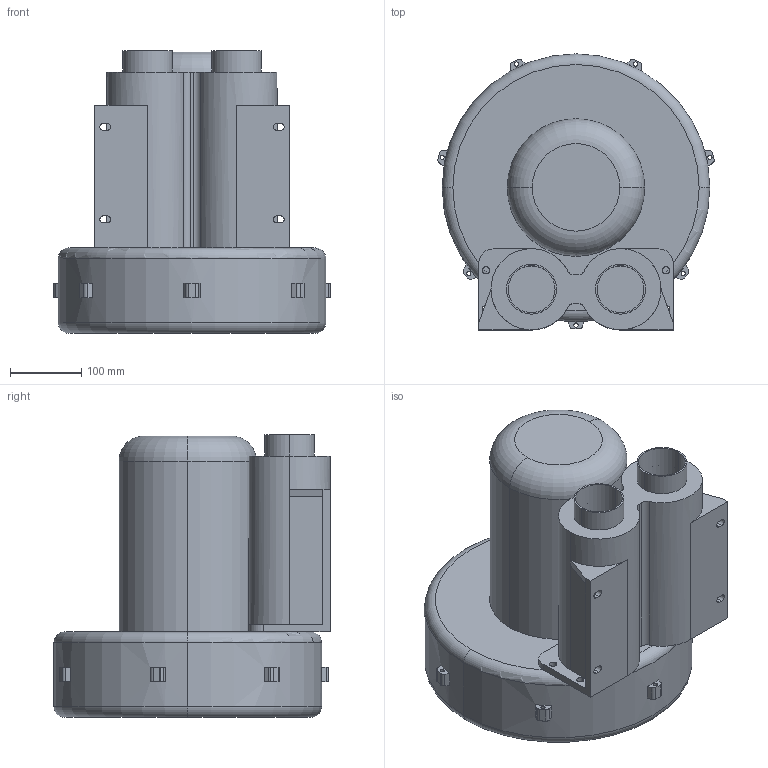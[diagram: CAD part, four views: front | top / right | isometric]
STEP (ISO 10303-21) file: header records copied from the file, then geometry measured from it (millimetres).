
FILE_DESCRIPTION (( 'STEP AP203' ), '1' );
FILE_NAME ('2200.STEP', '2019-05-09T03:42:20', ( 'User' ), ( 'www.dadighost.com' ), 'SwSTEP 2.0', 'SolidWorks 2014', '' );
FILE_SCHEMA (( 'CONFIG_CONTROL_DESIGN' ));
Length unit declared in the file: millimetre
Products named in the file (1): 2200
Bounding box: 387.99 x 388 x 397 mm (x, y, z)
Volume: 25366286.1 mm3; surface area: 834504.1 mm2
Topology: 1 solids, 1 shells, 154 faces, 403 edges, 257 vertices
Faces by surface type: plane 80, cylinder 68, torus 6
Entity records: 4905 total; most frequent: DIRECTION 894, CARTESIAN_POINT 815, ORIENTED_EDGE 806, EDGE_CURVE 403, AXIS2_PLACEMENT_3D 336, VERTEX_POINT 257, VECTOR 222, LINE 222
